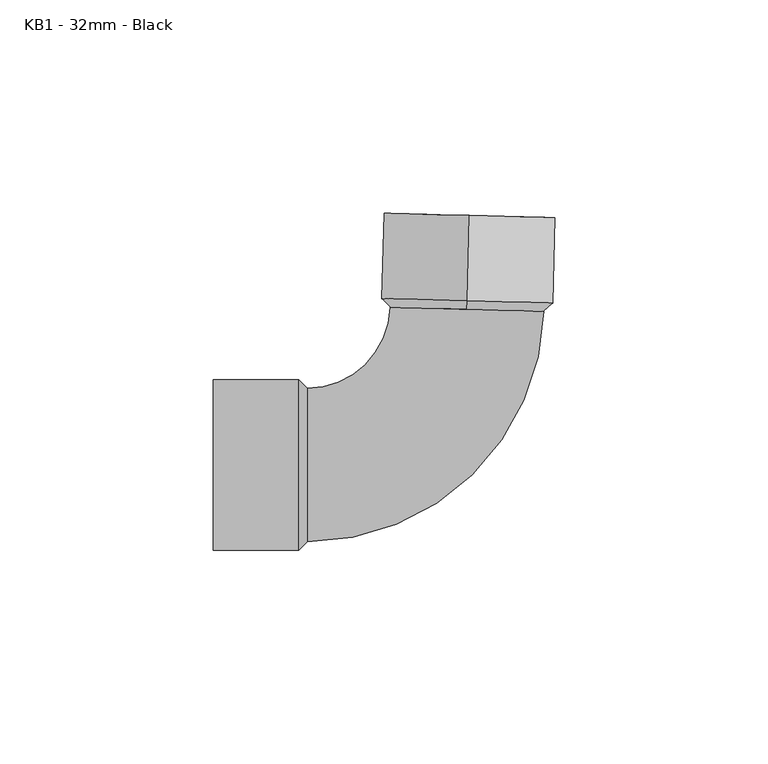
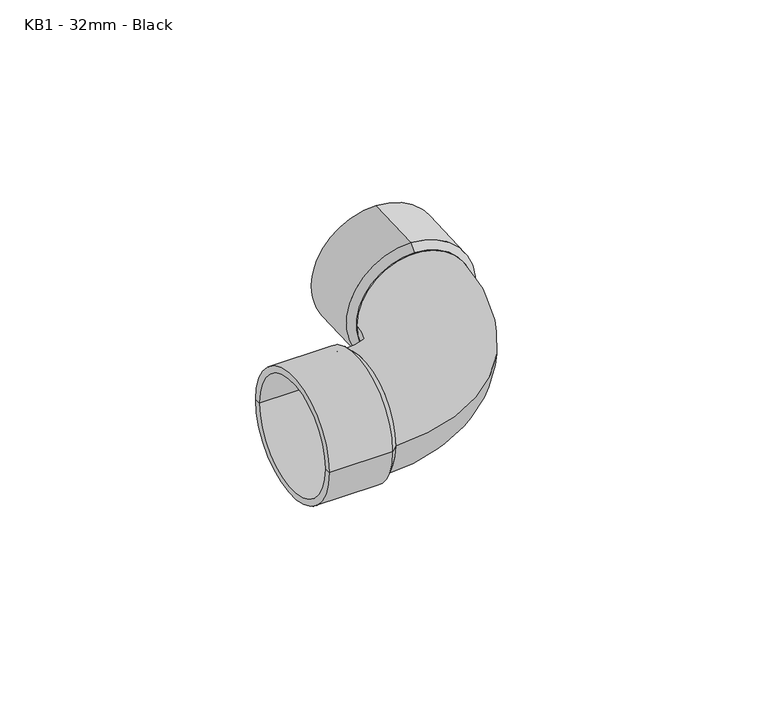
"""IFC4 building model written with IfcOpenShell, lengths in millimetres: pipe fitting geometry, MarleyPlumbingAndDrainage_PipeFitting_Bend88.5 : KB1 - 32mm - Black."""

from ifc_helpers import new_model, si_unit, point, frame, origin, place, context, project, spatial, polyline, circle_curve, ellipse_curve, trimmed, source, transform, mapped, element, save
from ifc_brep_helpers import plane_surface, cylinder_surface, revolved_surface, advanced_brep


def kb1_32mm_black_e9972e0a(model_context):
    return source(origin(), model_context, "Body", "AdvancedBrep", [
        advanced_brep(
        [(-13.2346282, 58.5108256, -18.0), (-13.2346282, 58.5108256, 18.0), (-13.2346282, 58.5108256, 20.0), (-13.2346282, 58.5108256, -20.0), (-13.7581671, 38.5176791, -18.0), (-13.7581671, 38.5176791, 18.0), (-13.7581671, 38.5176791, 0.0), (-13.810521, 36.5183644, -18.0), (-13.810521, 36.5183644, 18.0), (-13.810521, 36.5183644, 0.0), (-13.7581671, 38.5176791, -20.0), (-13.7581671, 38.5176791, 20.0)],
        [
            (0, 1, circle_curve(frame((-13.2346282, 58.5108256, 0.0), z_axis=(-0.026176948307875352, -0.9996573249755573, 0.0), x_axis=(0.0, 0.0, 1.0)), 18.0)),
            (1, 2),
            (2, 3, circle_curve(frame((-13.2346282, 58.5108256, 0.0), z_axis=(0.026176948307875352, 0.9996573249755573, 0.0), x_axis=(0.0, 0.0, 1.0)), 20.0)),
            (3, 0),
            (1, 0, circle_curve(frame((-13.2346282, 58.5108256, 0.0), z_axis=(-0.026176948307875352, -0.9996573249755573, 0.0), x_axis=(0.0, 0.0, 1.0)), 18.0)),
            (3, 2, circle_curve(frame((-13.2346282, 58.5108256, 0.0), z_axis=(0.026176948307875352, 0.9996573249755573, 0.0), x_axis=(0.0, 0.0, 1.0)), 20.0)),
            (4, 5, circle_curve(frame((-13.7581671, 38.5176791, 0.0), z_axis=(-0.026176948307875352, -0.9996573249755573, 0.0), x_axis=(0.0, 0.0, 1.0)), 18.0)),
            (5, 1),
            (0, 4),
            (5, 4, circle_curve(frame((-13.7581671, 38.5176791, 0.0), z_axis=(-0.026176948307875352, -0.9996573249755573, 0.0), x_axis=(0.0, 0.0, 1.0)), 18.0)),
            (6, 5),
            (4, 6),
            (7, 8, circle_curve(frame((-13.810521, 36.5183644, 0.0), z_axis=(-0.026176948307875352, -0.9996573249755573, 0.0), x_axis=(0.0, 0.0, 1.0)), 18.0)),
            (8, 9),
            (9, 7),
            (8, 7, circle_curve(frame((-13.810521, 36.5183644, 0.0), z_axis=(-0.026176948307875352, -0.9996573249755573, 0.0), x_axis=(0.0, 0.0, 1.0)), 18.0)),
            (10, 11, circle_curve(frame((-13.7581671, 38.5176791, 0.0), z_axis=(-0.026176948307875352, -0.9996573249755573, 0.0), x_axis=(0.0, 0.0, 1.0)), 20.0)),
            (11, 8),
            (7, 10),
            (11, 10, circle_curve(frame((-13.7581671, 38.5176791, 0.0), z_axis=(-0.026176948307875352, -0.9996573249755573, 0.0), x_axis=(0.0, 0.0, 1.0)), 20.0)),
            (2, 11),
            (10, 3),
        ],
        [
            plane_surface(frame((-13.2346282, 58.5108256, 0.0), z_axis=(0.026176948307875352, 0.9996573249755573, 0.0), x_axis=(0.0, 0.0, 1.0))),
            revolved_surface(polyline([(-13.23462817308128, 58.5108255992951, 18.0), (-13.758167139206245, 38.517679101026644, 18.0)]), (-12.2403481, 96.4808497, 0.0), (0.026176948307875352, 0.9996573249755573, 0.0)),
            plane_surface(frame((-13.7581671, 38.5176791, 0.0), z_axis=(0.026176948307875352, 0.9996573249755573, 0.0), x_axis=(0.0, 0.0, 1.0))),
            plane_surface(frame((-13.810521, 36.5183644, 0.0), z_axis=(-0.026176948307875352, -0.9996573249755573, 0.0), x_axis=(0.0, 0.0, 1.0))),
            revolved_surface(polyline([(-13.810521, 36.5183644, 18.0), (-13.7581671, 38.5176791, 20.0)]), (-12.2403481, 96.4808497, 0.0), (0.026176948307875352, 0.9996573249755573, 0.0)),
            cylinder_surface(frame((-12.2403481, 96.4808497, 0.0), z_axis=(0.026176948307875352, 0.9996573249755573, 0.0), x_axis=(0.0, 0.0, 1.0)), 20.0),
        ],
        [
            (0, [[1, 2, 3, 4]]),
            (0, [[5, -4, 6, -2]]),
            (1, [[7, 8, -1, 9]]),
            (1, [[10, -9, -5, -8]]),
            (2, [[11, -7, 12]]),
            (2, [[-12, -10, -11]]),
            (3, [[13, 14, 15]]),
            (3, [[16, -15, -14]]),
            (4, [[17, 18, -13, 19]]),
            (4, [[20, -19, -16, -18]]),
            (5, [[-3, 21, -17, 22]]),
            (5, [[-6, -22, -20, -21]]),
        ],
    ),
        advanced_brep(
        [(-73.2976707, 18.0, 0.0), (-73.2976707, -18.0, 0.0), (-73.2976707, -20.0, 0.0), (-73.2976707, 20.0, 0.0), (-53.2976707, 18.0, 0.0), (-53.2976707, -18.0, 0.0), (-53.2976707, 0.0, 0.0), (-51.2976707, 18.0, 0.0), (-51.2976707, -18.0, 0.0), (-51.2976707, 0.0, 0.0), (-53.2976707, 20.0, 0.0), (-53.2976707, -20.0, 0.0)],
        [
            (0, 1, circle_curve(frame((-73.2976707, 0.0, 0.0), z_axis=(1.0, 0.0, 0.0), x_axis=(0.0, -1.0, 0.0)), 18.0)),
            (1, 2),
            (2, 3, circle_curve(frame((-73.2976707, 0.0, 0.0), z_axis=(-1.0, 0.0, 0.0), x_axis=(0.0, -1.0, 0.0)), 20.0)),
            (3, 0),
            (1, 0, circle_curve(frame((-73.2976707, 0.0, 0.0), z_axis=(1.0, 0.0, 0.0), x_axis=(0.0, -1.0, 0.0)), 18.0)),
            (3, 2, circle_curve(frame((-73.2976707, 0.0, 0.0), z_axis=(-1.0, 0.0, 0.0), x_axis=(0.0, -1.0, 0.0)), 20.0)),
            (4, 5, circle_curve(frame((-53.2976707, 0.0, 0.0), z_axis=(1.0, 0.0, 0.0), x_axis=(0.0, -1.0, 0.0)), 18.0)),
            (5, 1),
            (0, 4),
            (5, 4, circle_curve(frame((-53.2976707, 0.0, 0.0), z_axis=(1.0, 0.0, 0.0), x_axis=(0.0, -1.0, 0.0)), 18.0)),
            (6, 5),
            (4, 6),
            (7, 8, circle_curve(frame((-51.2976707, 0.0, 0.0), z_axis=(1.0, 0.0, 0.0), x_axis=(0.0, -1.0, 0.0)), 18.0)),
            (8, 9),
            (9, 7),
            (8, 7, circle_curve(frame((-51.2976707, 0.0, 0.0), z_axis=(1.0, 0.0, 0.0), x_axis=(0.0, -1.0, 0.0)), 18.0)),
            (10, 11, circle_curve(frame((-53.2976707, 0.0, 0.0), z_axis=(1.0, 0.0, 0.0), x_axis=(0.0, -1.0, 0.0)), 20.0)),
            (11, 8),
            (7, 10),
            (11, 10, circle_curve(frame((-53.2976707, 0.0, 0.0), z_axis=(1.0, 0.0, 0.0), x_axis=(0.0, -1.0, 0.0)), 20.0)),
            (2, 11),
            (10, 3),
        ],
        [
            plane_surface(frame((-73.2976707, 0.0, 0.0), z_axis=(-1.0, 0.0, 0.0), x_axis=(0.0, -1.0, 0.0))),
            revolved_surface(polyline([(-73.2976707, -18.0, 0.0), (-53.2976707, -18.0, 0.0)]), (-111.2807107, 0.0, 0.0), (-1.0, 0.0, 0.0)),
            plane_surface(frame((-53.2976707, 0.0, 0.0), z_axis=(-1.0, 0.0, 0.0), x_axis=(0.0, -1.0, 0.0))),
            plane_surface(frame((-51.2976707, 0.0, 0.0), z_axis=(1.0, 0.0, 0.0), x_axis=(0.0, -1.0, 0.0))),
            revolved_surface(polyline([(-51.2976707, -18.0, 0.0), (-53.2976707, -20.0, 0.0)]), (-111.2807107, 0.0, 0.0), (-1.0, 0.0, 0.0)),
            cylinder_surface(frame((-111.2807107, 0.0, 0.0), z_axis=(-1.0, 0.0, 0.0), x_axis=(0.0, -1.0, 0.0)), 20.0),
        ],
        [
            (0, [[1, 2, 3, 4]]),
            (0, [[5, -4, 6, -2]]),
            (1, [[7, 8, -1, 9]]),
            (1, [[10, -9, -5, -8]]),
            (2, [[11, -7, 12]]),
            (2, [[-12, -10, -11]]),
            (3, [[13, 14, 15]]),
            (3, [[16, -15, -14]]),
            (4, [[17, 18, -13, 19]]),
            (4, [[20, -19, -16, -18]]),
            (5, [[-3, 21, -17, 22]]),
            (5, [[-6, -22, -20, -21]]),
        ],
    ),
        advanced_brep(
        [(-51.2976707, -18.0, 0.0), (-51.2976707, 18.0, 0.0), (4.1833108, 36.0471794, 0.0), (-31.8043529, 36.9895495, 0.0)],
        [
            (0, 1, circle_curve(frame((-51.2976707, 0.0, 0.0), z_axis=(-1.0, 0.0, 0.0), x_axis=(0.0, 1.0, 0.0)), 18.0)),
            (1, 0, circle_curve(frame((-51.2976707, 0.0, 0.0), z_axis=(-1.0, 0.0, 0.0), x_axis=(0.0, 1.0, 0.0)), 18.0)),
            (2, 3, circle_curve(frame((-13.810521, 36.5183644, 0.0), z_axis=(0.02617694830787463, 0.9996573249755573, 0.0), x_axis=(-0.9996573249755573, 0.02617694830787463, 0.0)), 18.0)),
            (3, 2, circle_curve(frame((-13.810521, 36.5183644, 0.0), z_axis=(0.02617694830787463, 0.9996573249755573, 0.0), x_axis=(-0.9996573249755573, 0.02617694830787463, 0.0)), 18.0)),
            (3, 1, circle_curve(frame((-51.2976707, 37.5, 0.0), z_axis=(0.0, 0.0, -1.0), x_axis=(0.0, -1.0, 0.0)), 19.5)),
            (0, 2, circle_curve(frame((-51.2976707, 37.5, 0.0), z_axis=(0.0, 0.0, 1.0), x_axis=(0.0, -1.0, 0.0)), 55.5)),
        ],
        [
            plane_surface(frame((-51.2976707, 0.0, 0.0), z_axis=(-1.0, 0.0, 0.0), x_axis=(0.0, 0.0, 1.0))),
            plane_surface(frame((-13.810521, 36.5183644, 0.0), z_axis=(0.02617694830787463, 0.9996573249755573, 0.0), x_axis=(0.0, 0.0, 1.0))),
            revolved_surface(trimmed(ellipse_curve(frame((-51.2976707, 0.0, 0.0), z_axis=(-1.0, 0.0, 0.0), x_axis=(0.0, 1.0, 0.0)), 18.0, 18.0), [point((-51.2976707, -18.0, 0.0))], [point((-51.2976707, 18.0, 0.0))], True, "CARTESIAN"), (-51.2976707, 37.5, 0.0), (0.0, 0.0, 1.0)),
            revolved_surface(trimmed(ellipse_curve(frame((-51.2976707, 0.0, 0.0), z_axis=(-1.0, 0.0, 0.0), x_axis=(0.0, 1.0, 0.0)), 18.0, 18.0), [point((-51.2976707, 18.0, 0.0))], [point((-51.2976707, -18.0, 0.0))], True, "CARTESIAN"), (-51.2976707, 37.5, 0.0), (0.0, 0.0, 1.0)),
        ],
        [
            (0, [[1, 2]]),
            (1, [[3, 4]]),
            (2, [[5, -1, 6, -4]]),
            (3, [[-6, -2, -5, -3]]),
        ],
    ),
    ])


if __name__ == "__main__":
    model = new_model("IFC4")
    model_context = context("Model", 3, world=origin())
    ifc_project = project(units=[si_unit("LENGTHUNIT", "METRE", prefix="MILLI")], contexts=[model_context])
    site = spatial("IfcSite", under=ifc_project)
    building = spatial("IfcBuilding", under=site)
    placement = place(None, origin())
    kb1_32mm_black_shape = kb1_32mm_black_e9972e0a(model_context)
    element("IfcPipeFitting", 1, ObjectType="MarleyPlumbingAndDrainage_PipeFitting_Bend88.5 : KB1 - 32mm - Black", at=placement, inside=building, context=model_context, shape_type="MappedRepresentation", body=[
        mapped(kb1_32mm_black_shape, transform((0.0, 0.0, 0.0), x_axis=(1.0, 0.0, 0.0), y_axis=(0.0, 1.0, 0.0), z_axis=(0.0, 0.0, 1.0))),
    ])
    save(model, "model.ifc")
